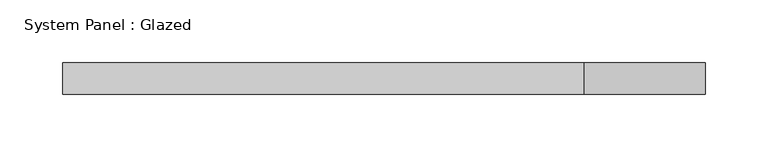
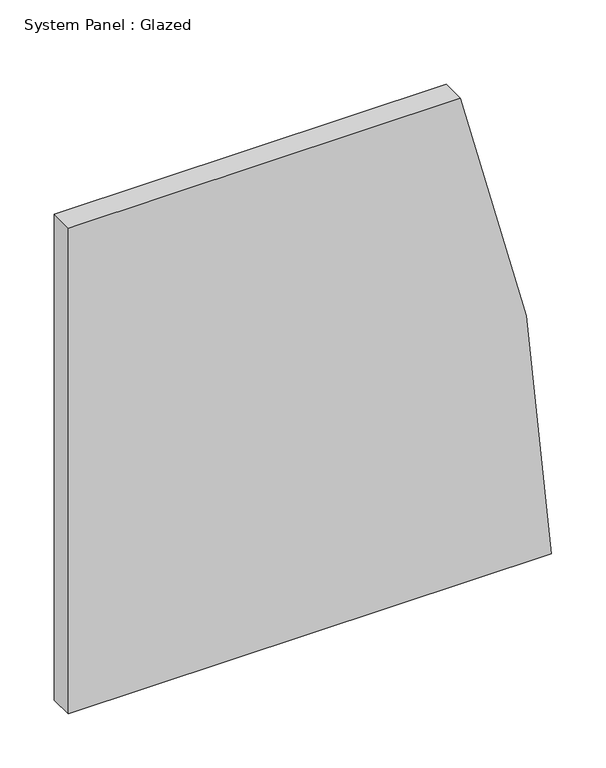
"""IFC4 building model written with IfcOpenShell, lengths in millimetres: plate geometry, System Panel : Glazed."""

from ifc_helpers import new_model, si_unit, point, frame, frame_2d, origin, place, context, project, spatial, polyline, circle_curve, trimmed, segment, composite_curve, outline, extrude, source, transform, mapped, element, save


def system_panel_glazed_7314fa50(model_context):
    return source(origin(), model_context, "Body", "SweptSolid", [
        extrude(outline(composite_curve([segment(polyline([(0.0, -257.0322277), (0.0, 257.0322277)]), True, "CONTINUOUS"), segment(trimmed(circle_curve(frame_2d((-31.75, -1507.9822277)), 1765.3), [point((0.0, 257.0322277))], [point((546.1, 160.0625761))], False, "CARTESIAN"), True, "CONTINUOUS"), segment(polyline([(546.1, 160.0625761), (546.1, -257.0322277), (0.0, -257.0322277)]), True, "CONTINUOUS")], self_intersect=False)), frame((0.0, 19.05, 0.0), z_axis=(0.0, 1.0, 0.0), x_axis=(0.0, 0.0, 1.0)), (0.0, 0.0, 1.0), 25.4),
    ])


if __name__ == "__main__":
    model = new_model("IFC4")
    model_context = context("Model", 3, world=origin())
    ifc_project = project(units=[si_unit("LENGTHUNIT", "METRE", prefix="MILLI")], contexts=[model_context])
    site = spatial("IfcSite", under=ifc_project)
    building = spatial("IfcBuilding", under=site)
    placement = place(None, origin())
    system_panel_glazed_shape = system_panel_glazed_7314fa50(model_context)
    element("IfcPlate", 1, ObjectType="System Panel : Glazed", at=placement, inside=building, context=model_context, shape_type="MappedRepresentation", body=[
        mapped(system_panel_glazed_shape, transform((0.0, 0.0, 0.0), x_axis=(1.0, 0.0, 0.0), y_axis=(0.0, 1.0, 0.0), z_axis=(0.0, 0.0, 1.0))),
    ])
    save(model, "model.ifc")
